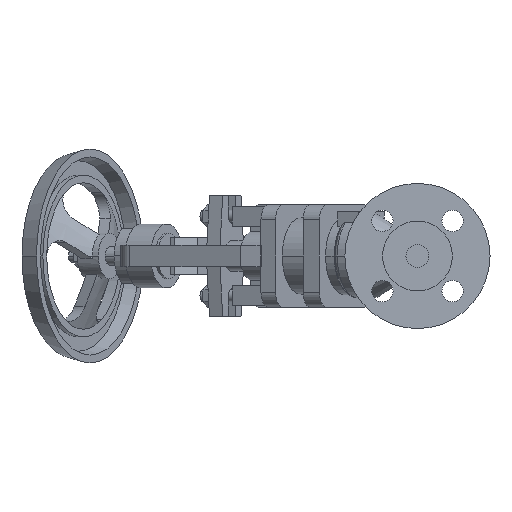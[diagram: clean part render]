
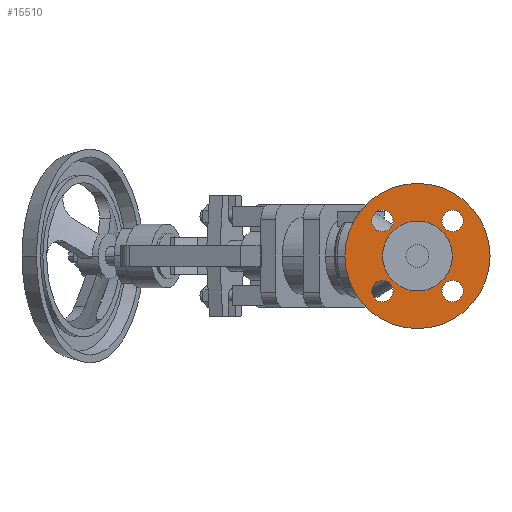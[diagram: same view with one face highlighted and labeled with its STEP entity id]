
A CAD part, left-side view. The second image highlights one B-rep face of the part: STEP entity #15510.
In plain terms, the highlighted planar face has unit normal (-1, 0, 0).
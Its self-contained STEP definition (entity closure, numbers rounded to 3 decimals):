
#5080=CARTESIAN_POINT('',(2.74,22.815,0.));
#5090=VERTEX_POINT('',#5080);
#5120=CARTESIAN_POINT('',(2.74,0.,0.));
#5130=DIRECTION('',(-1.,0.,0.));
#5140=DIRECTION('',(0.,1.,0.));
#5150=AXIS2_PLACEMENT_3D('',#5120,#5130,#5140);
#5160=CIRCLE('',#5150,22.815);
#5170=CARTESIAN_POINT('',(2.74,-22.815,0.));
#5180=VERTEX_POINT('',#5170);
#5190=EDGE_CURVE('',#5180,#5090,#5160,.T.);
#7840=CARTESIAN_POINT('',(2.74,0.,-47.5));
#7850=VERTEX_POINT('',#7840);
#7900=CARTESIAN_POINT('',(2.74,0.,0.));
#7910=DIRECTION('',(1.,0.,0.));
#7920=DIRECTION('',(0.,0.,-1.));
#7930=AXIS2_PLACEMENT_3D('',#7900,#7910,#7920);
#7940=CIRCLE('',#7930,47.5);
#7950=CARTESIAN_POINT('',(2.74,0.,47.5));
#7960=VERTEX_POINT('',#7950);
#7970=EDGE_CURVE('',#7960,#7850,#7940,.T.);
#8330=CARTESIAN_POINT('',(2.74,22.981,-15.981));
#8340=VERTEX_POINT('',#8330);
#8520=CARTESIAN_POINT('',(2.74,22.981,-29.981));
#8530=VERTEX_POINT('',#8520);
#8560=CARTESIAN_POINT('',(2.74,22.981,-22.981));
#8570=DIRECTION('',(-1.,0.,0.));
#8580=DIRECTION('',(0.,0.,-1.));
#8590=AXIS2_PLACEMENT_3D('',#8560,#8570,#8580);
#8600=CIRCLE('',#8590,7.);
#8610=EDGE_CURVE('',#8340,#8530,#8600,.T.);
#8820=CARTESIAN_POINT('',(2.74,-22.981,-15.981));
#8830=VERTEX_POINT('',#8820);
#9010=CARTESIAN_POINT('',(2.74,-22.981,-29.981));
#9020=VERTEX_POINT('',#9010);
#9050=CARTESIAN_POINT('',(2.74,-22.981,-22.981));
#9060=DIRECTION('',(-1.,0.,0.));
#9070=DIRECTION('',(0.,0.,-1.));
#9080=AXIS2_PLACEMENT_3D('',#9050,#9060,#9070);
#9090=CIRCLE('',#9080,7.);
#9100=EDGE_CURVE('',#8830,#9020,#9090,.T.);
#9310=CARTESIAN_POINT('',(2.74,22.981,15.981));
#9320=VERTEX_POINT('',#9310);
#9500=CARTESIAN_POINT('',(2.74,22.981,29.981));
#9510=VERTEX_POINT('',#9500);
#9540=CARTESIAN_POINT('',(2.74,22.981,22.981));
#9550=DIRECTION('',(-1.,0.,0.));
#9560=DIRECTION('',(0.,0.,-1.));
#9570=AXIS2_PLACEMENT_3D('',#9540,#9550,#9560);
#9580=CIRCLE('',#9570,7.);
#9590=EDGE_CURVE('',#9320,#9510,#9580,.T.);
#9800=CARTESIAN_POINT('',(2.74,-22.981,15.981));
#9810=VERTEX_POINT('',#9800);
#9860=CARTESIAN_POINT('',(2.74,-22.981,22.981));
#9870=DIRECTION('',(-1.,0.,0.));
#9880=DIRECTION('',(0.,0.,-1.));
#9890=AXIS2_PLACEMENT_3D('',#9860,#9870,#9880);
#9900=CIRCLE('',#9890,7.);
#9910=CARTESIAN_POINT('',(2.74,-22.981,29.981));
#9920=VERTEX_POINT('',#9910);
#9930=EDGE_CURVE('',#9920,#9810,#9900,.T.);
#15160=CARTESIAN_POINT('',(2.74,0.,0.));
#15170=DIRECTION('',(1.,0.,0.));
#15180=DIRECTION('',(0.,0.,-1.));
#15190=AXIS2_PLACEMENT_3D('',#15160,#15170,#15180);
#15200=PLANE('',#15190);
#15210=ORIENTED_EDGE('',*,*,#9930,.F.);
#15220=EDGE_CURVE('',#9810,#9920,#9900,.T.);
#15230=ORIENTED_EDGE('',*,*,#15220,.F.);
#15240=EDGE_LOOP('',(#15230,#15210));
#15250=FACE_BOUND('',#15240,.T.);
#15260=EDGE_CURVE('',#9510,#9320,#9580,.T.);
#15270=ORIENTED_EDGE('',*,*,#15260,.F.);
#15280=ORIENTED_EDGE('',*,*,#9590,.F.);
#15290=EDGE_LOOP('',(#15280,#15270));
#15300=FACE_BOUND('',#15290,.T.);
#15310=EDGE_CURVE('',#9020,#8830,#9090,.T.);
#15320=ORIENTED_EDGE('',*,*,#15310,.F.);
#15330=ORIENTED_EDGE('',*,*,#9100,.F.);
#15340=EDGE_LOOP('',(#15330,#15320));
#15350=FACE_BOUND('',#15340,.T.);
#15360=EDGE_CURVE('',#8530,#8340,#8600,.T.);
#15370=ORIENTED_EDGE('',*,*,#15360,.F.);
#15380=ORIENTED_EDGE('',*,*,#8610,.F.);
#15390=EDGE_LOOP('',(#15380,#15370));
#15400=FACE_BOUND('',#15390,.T.);
#15410=ORIENTED_EDGE('',*,*,#7970,.F.);
#15420=EDGE_CURVE('',#7850,#7960,#7940,.T.);
#15430=ORIENTED_EDGE('',*,*,#15420,.F.);
#15440=EDGE_LOOP('',(#15430,#15410));
#15450=FACE_OUTER_BOUND('',#15440,.T.);
#15460=EDGE_CURVE('',#5090,#5180,#5160,.T.);
#15470=ORIENTED_EDGE('',*,*,#15460,.F.);
#15480=ORIENTED_EDGE('',*,*,#5190,.F.);
#15490=EDGE_LOOP('',(#15480,#15470));
#15500=FACE_BOUND('',#15490,.T.);
#15510=ADVANCED_FACE('',(#15250,#15300,#15350,#15400,#15450,#15500),
#15200,.F.);
